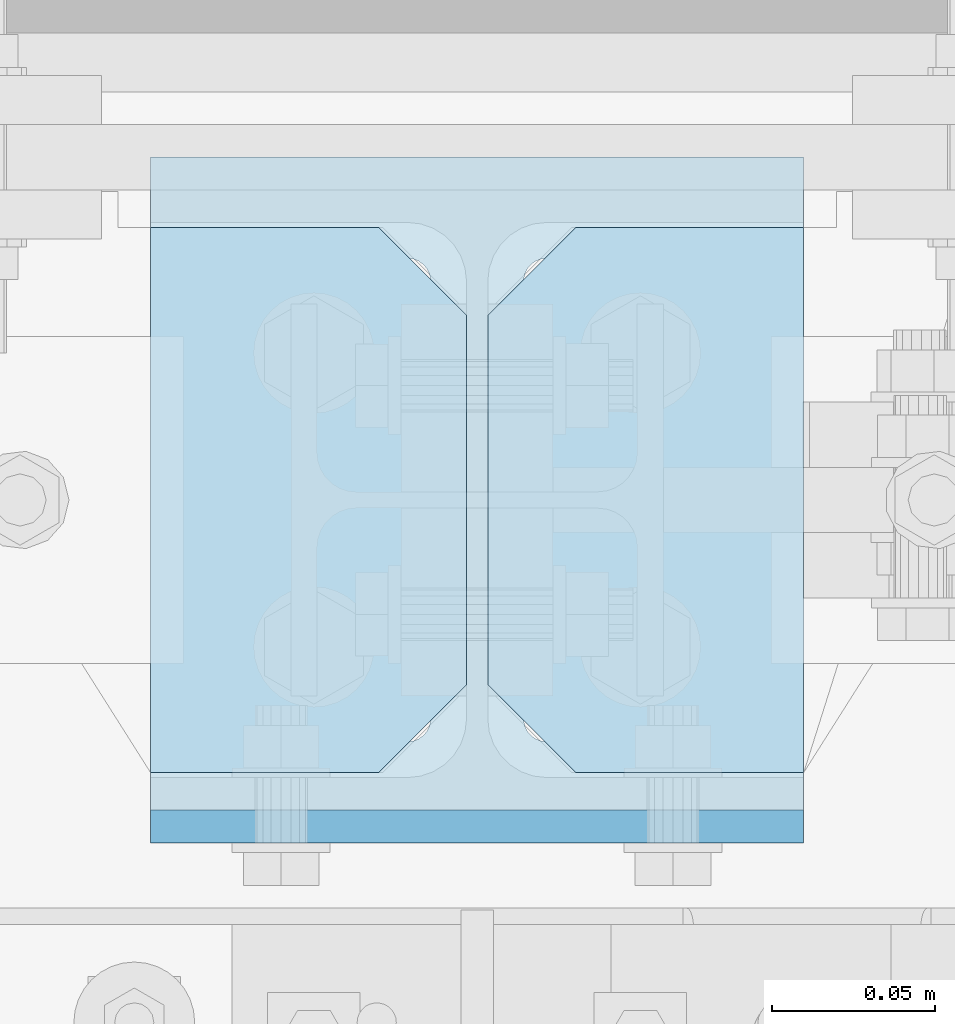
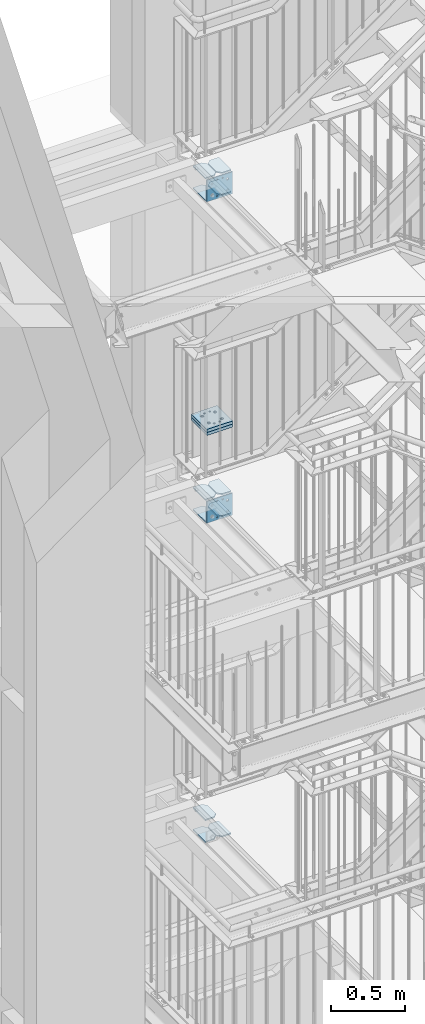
# One storey, part 186 of 825: 15 plates, 54 openings.
"""IFC2X3 building model written with IfcOpenShell, lengths in millimetres."""

from ifc_helpers import new_model, entity, si_unit, converted_unit, frame, frame_2d, origin, origin_with_axes, origin_2d_with_axis, place, context, project, spatial, polyline, circle, outline, extrude, material, layer, layer_set, element, save


model = new_model("IFC2X3")

# Units and contexts
model_context = context("Model", 3, precision=1e-09, world=origin_with_axes())
ifc_project = project(units=[si_unit("LENGTHUNIT", "METRE", prefix="MILLI"), si_unit("AREAUNIT", "SQUARE_METRE"), si_unit("VOLUMEUNIT", "CUBIC_METRE"), converted_unit("PLANEANGLEUNIT", "DEGREE", entity("IfcPlaneAngleMeasure", 0.01745329), si_unit("PLANEANGLEUNIT", "RADIAN"), dimensions=[0, 0, 0, 0, 0, 0, 0])], contexts=[model_context])

# Site, building, storey
site_placement = place(None, origin_with_axes())
site = spatial("IfcSite", under=ifc_project, at=site_placement, Name="Cnopf'sche Kinderklinik", CompositionType="ELEMENT")
building_placement = place(site_placement, origin_with_axes())
building = spatial("IfcBuilding", under=site, at=building_placement, Name="Struktur 1", CompositionType="ELEMENT")
storey_placement = place(building_placement, origin_with_axes())
storey = spatial("IfcBuildingStorey", under=building, at=storey_placement, Name="Default Storey", CompositionType="ELEMENT", Elevation=0.0)

# Plate, openings
ifc_material = material(Name="S235JR")
ifc_layer_1 = layer(ifc_material, 10.0)
ifc_layer_set_1 = layer_set([ifc_layer_1], Name="S235JR")
plate_1_placement = place(None, frame((4756.713402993, 7433.236971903, 9702.0), z_axis=(0.0, 0.0, 1.0), x_axis=(1.0, 0.0, 0.0)))
plate_1 = element("IfcPlate", 1, at=plate_1_placement, inside=storey, material=ifc_layer_set_1, Name="Stiffener#2", ObjectType="Stiffener#2", context=model_context, shape_type="SweptSolid", body=[
    extrude(outline(polyline([(0.0, 0.0), (96.75, 0.0), (96.75, 167.0), (0.0, 167.0), (0.0, 0.0)])), origin_with_axes(), (0.0, 0.0, 1.0), 10.0),
])
opening_1_placement = place(plate_1_placement, frame((0.0, 0.0, -0.01), z_axis=(0.0, 0.0, 1.0), x_axis=(1.0, 0.0, 0.0)))
element("IfcOpeningElement", 2, at=opening_1_placement, cuts=plate_1, ObjectType="Opening", context=model_context, shape_type="SweptSolid", body=[
    extrude(outline(polyline([(96.75, 167.0), (69.75, 167.0), (96.75, 140.0), (96.75, 167.0)])), origin(), (0.0, 0.0, 1.0), 10.02),
])
opening_2_placement = place(plate_1_placement, frame((0.0, 0.0, -0.01), z_axis=(0.0, 0.0, 1.0), x_axis=(1.0, 0.0, 0.0)))
element("IfcOpeningElement", 3, at=opening_2_placement, cuts=plate_1, ObjectType="Opening", context=model_context, shape_type="SweptSolid", body=[
    extrude(outline(polyline([(96.75, 0.0), (96.75, 27.0), (69.75, 0.0), (96.75, 0.0)])), origin(), (0.0, 0.0, 1.0), 10.02),
])

plate_2_placement = place(None, frame((4956.713402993, 7433.236971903, 9532.0), z_axis=(0.0, 0.0, -1.0), x_axis=(-1.0, 0.0, 0.0)))
plate_2 = element("IfcPlate", 4, at=plate_2_placement, inside=storey, material=ifc_layer_set_1, Name="Stiffener#3", ObjectType="Stiffener#3", context=model_context, shape_type="SweptSolid", body=[
    extrude(outline(polyline([(0.0, 0.0), (96.75, 0.0), (96.75, 167.0), (0.0, 167.0), (0.0, 0.0)])), origin_with_axes(), (0.0, 0.0, 1.0), 10.0),
])
opening_3_placement = place(plate_2_placement, frame((0.0, 0.0, -0.01), z_axis=(0.0, 0.0, 1.0), x_axis=(1.0, 0.0, 0.0)))
element("IfcOpeningElement", 5, at=opening_3_placement, cuts=plate_2, ObjectType="Opening", context=model_context, shape_type="SweptSolid", body=[
    extrude(outline(polyline([(96.75, 167.0), (69.75, 167.0), (96.75, 140.0), (96.75, 167.0)])), origin(), (0.0, 0.0, 1.0), 10.02),
])
opening_4_placement = place(plate_2_placement, frame((0.0, 0.0, -0.01), z_axis=(0.0, 0.0, 1.0), x_axis=(1.0, 0.0, 0.0)))
element("IfcOpeningElement", 6, at=opening_4_placement, cuts=plate_2, ObjectType="Opening", context=model_context, shape_type="SweptSolid", body=[
    extrude(outline(polyline([(96.75, 0.0), (96.75, 27.0), (69.75, 0.0), (96.75, 0.0)])), origin(), (0.0, 0.0, 1.0), 10.02),
])

plate_3_placement = place(None, frame((4853.463402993, 7433.236971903, 9532.0), z_axis=(0.0, 0.0, -1.0), x_axis=(-1.0, 0.0, 0.0)))
plate_3 = element("IfcPlate", 7, at=plate_3_placement, inside=storey, material=ifc_layer_set_1, Name="Stiffener#4", ObjectType="Stiffener#4", context=model_context, shape_type="SweptSolid", body=[
    extrude(outline(polyline([(0.0, 0.0), (96.75, 0.0), (96.75, 167.0), (0.0, 167.0), (0.0, 0.0)])), origin_with_axes(), (0.0, 0.0, 1.0), 10.0),
])
opening_5_placement = place(plate_3_placement, frame((0.0, 0.0, -0.01), z_axis=(0.0, 0.0, 1.0), x_axis=(1.0, 0.0, 0.0)))
element("IfcOpeningElement", 8, at=opening_5_placement, cuts=plate_3, ObjectType="Opening", context=model_context, shape_type="SweptSolid", body=[
    extrude(outline(polyline([(0.0, 167.0), (0.0, 140.0), (27.0, 167.0), (0.0, 167.0)])), origin(), (0.0, 0.0, 1.0), 10.02),
])
opening_6_placement = place(plate_3_placement, frame((0.0, 0.0, -0.01), z_axis=(0.0, 0.0, 1.0), x_axis=(1.0, 0.0, 0.0)))
element("IfcOpeningElement", 9, at=opening_6_placement, cuts=plate_3, ObjectType="Opening", context=model_context, shape_type="SweptSolid", body=[
    extrude(outline(polyline([(0.0, 0.0), (27.0, 0.0), (0.0, 27.0), (0.0, 0.0)])), origin(), (0.0, 0.0, 1.0), 10.02),
])

plate_4_placement = place(None, frame((4856.713402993, 7411.736971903, 12244.0), z_axis=(0.0, 1.0, 0.0), x_axis=(0.0, 0.0, -1.0)))
plate_4 = element("IfcPlate", 10, at=plate_4_placement, inside=storey, material=ifc_layer_set_1, Name="Endplate", ObjectType="Endplate", context=model_context, shape_type="SweptSolid", body=[
    extrude(outline(polyline([(-90.0, -100.0), (90.0, -100.0), (90.0, 100.0), (-90.0, 100.0), (-90.0, -100.0)])), origin_with_axes(), (0.0, 0.0, 1.0), 10.0),
])
opening_7_placement = place(plate_4_placement, frame((-67.0, 21.25, 10.5), z_axis=(0.0, 0.0, -1.0), x_axis=(-1.0, 0.0, 0.0)))
element("IfcOpeningElement", 11, at=opening_7_placement, cuts=plate_4, ObjectType="Opening", context=model_context, shape_type="SweptSolid", body=[
    extrude(circle(Radius=6.001, at=origin_2d_with_axis()), origin(), (0.0, 0.0, 1.0), 11.0),
])
opening_8_placement = place(plate_4_placement, frame((67.0, 21.25, 10.5), z_axis=(0.0, 0.0, -1.0), x_axis=(-1.0, 0.0, 0.0)))
element("IfcOpeningElement", 12, at=opening_8_placement, cuts=plate_4, ObjectType="Opening", context=model_context, shape_type="SweptSolid", body=[
    extrude(circle(Radius=6.001, at=origin_2d_with_axis()), origin(), (0.0, 0.0, 1.0), 11.0),
])
opening_9_placement = place(plate_4_placement, frame((67.0, -21.25, 10.5), z_axis=(0.0, 0.0, -1.0), x_axis=(-1.0, 0.0, 0.0)))
element("IfcOpeningElement", 13, at=opening_9_placement, cuts=plate_4, ObjectType="Opening", context=model_context, shape_type="SweptSolid", body=[
    extrude(circle(Radius=6.001, at=origin_2d_with_axis()), origin(), (0.0, 0.0, 1.0), 11.0),
])
opening_10_placement = place(plate_4_placement, frame((-67.0, -21.25, 10.5), z_axis=(0.0, 0.0, -1.0), x_axis=(-1.0, 0.0, 0.0)))
element("IfcOpeningElement", 14, at=opening_10_placement, cuts=plate_4, ObjectType="Opening", context=model_context, shape_type="SweptSolid", body=[
    extrude(circle(Radius=6.001, at=origin_2d_with_axis()), origin(), (0.0, 0.0, 1.0), 11.0),
])
opening_11_placement = place(plate_4_placement, frame((-45.0, -60.0, 10.5), z_axis=(0.0, 0.0, -1.0), x_axis=(0.0, -1.0, 0.0)))
element("IfcOpeningElement", 15, at=opening_11_placement, cuts=plate_4, ObjectType="Opening", context=model_context, shape_type="SweptSolid", body=[
    extrude(circle(Radius=9.001, at=origin_2d_with_axis()), origin(), (0.0, 0.0, 1.0), 11.0),
])
opening_12_placement = place(plate_4_placement, frame((45.0, -60.0, 10.5), z_axis=(0.0, 0.0, -1.0), x_axis=(0.0, -1.0, 0.0)))
element("IfcOpeningElement", 16, at=opening_12_placement, cuts=plate_4, ObjectType="Opening", context=model_context, shape_type="SweptSolid", body=[
    extrude(circle(Radius=9.001, at=origin_2d_with_axis()), origin(), (0.0, 0.0, 1.0), 11.0),
])
opening_13_placement = place(plate_4_placement, frame((45.0, 60.0, 10.5), z_axis=(0.0, 0.0, -1.0), x_axis=(0.0, 1.0, 0.0)))
element("IfcOpeningElement", 17, at=opening_13_placement, cuts=plate_4, ObjectType="Opening", context=model_context, shape_type="SweptSolid", body=[
    extrude(circle(Radius=9.001, at=origin_2d_with_axis()), origin(), (0.0, 0.0, 1.0), 11.0),
])
opening_14_placement = place(plate_4_placement, frame((-45.0, 60.0, 10.5), z_axis=(0.0, 0.0, -1.0), x_axis=(0.0, 1.0, 0.0)))
element("IfcOpeningElement", 18, at=opening_14_placement, cuts=plate_4, ObjectType="Opening", context=model_context, shape_type="SweptSolid", body=[
    extrude(circle(Radius=9.001, at=origin_2d_with_axis()), origin(), (0.0, 0.0, 1.0), 11.0),
])

plate_5_placement = place(None, frame((4859.963402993, 7433.236971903, 12329.0), z_axis=(0.0, 0.0, 1.0), x_axis=(1.0, 0.0, 0.0)))
plate_5 = element("IfcPlate", 19, at=plate_5_placement, inside=storey, material=ifc_layer_set_1, Name="Stiffener#1", ObjectType="Stiffener#1", context=model_context, shape_type="SweptSolid", body=[
    extrude(outline(polyline([(0.0, 0.0), (96.75, 0.0), (96.75, 167.0), (0.0, 167.0), (0.0, 0.0)])), origin_with_axes(), (0.0, 0.0, 1.0), 10.0),
])
opening_15_placement = place(plate_5_placement, frame((0.0, 0.0, -0.01), z_axis=(0.0, 0.0, 1.0), x_axis=(1.0, 0.0, 0.0)))
element("IfcOpeningElement", 20, at=opening_15_placement, cuts=plate_5, ObjectType="Opening", context=model_context, shape_type="SweptSolid", body=[
    extrude(outline(polyline([(0.0, 167.0), (0.0, 140.0), (27.0, 167.0), (0.0, 167.0)])), origin(), (0.0, 0.0, 1.0), 10.02),
])
opening_16_placement = place(plate_5_placement, frame((0.0, 0.0, -0.01), z_axis=(0.0, 0.0, 1.0), x_axis=(1.0, 0.0, 0.0)))
element("IfcOpeningElement", 21, at=opening_16_placement, cuts=plate_5, ObjectType="Opening", context=model_context, shape_type="SweptSolid", body=[
    extrude(outline(polyline([(0.0, 0.0), (27.0, 0.0), (0.0, 27.0), (0.0, 0.0)])), origin(), (0.0, 0.0, 1.0), 10.02),
])

plate_6_placement = place(None, frame((4756.713402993, 7433.236971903, 12329.0), z_axis=(0.0, 0.0, 1.0), x_axis=(1.0, 0.0, 0.0)))
plate_6 = element("IfcPlate", 22, at=plate_6_placement, inside=storey, material=ifc_layer_set_1, Name="Stiffener#2", ObjectType="Stiffener#2", context=model_context, shape_type="SweptSolid", body=[
    extrude(outline(polyline([(0.0, 0.0), (96.75, 0.0), (96.75, 167.0), (0.0, 167.0), (0.0, 0.0)])), origin_with_axes(), (0.0, 0.0, 1.0), 10.0),
])
opening_17_placement = place(plate_6_placement, frame((0.0, 0.0, -0.01), z_axis=(0.0, 0.0, 1.0), x_axis=(1.0, 0.0, 0.0)))
element("IfcOpeningElement", 23, at=opening_17_placement, cuts=plate_6, ObjectType="Opening", context=model_context, shape_type="SweptSolid", body=[
    extrude(outline(polyline([(96.75, 167.0), (69.75, 167.0), (96.75, 140.0), (96.75, 167.0)])), origin(), (0.0, 0.0, 1.0), 10.02),
])
opening_18_placement = place(plate_6_placement, frame((0.0, 0.0, -0.01), z_axis=(0.0, 0.0, 1.0), x_axis=(1.0, 0.0, 0.0)))
element("IfcOpeningElement", 24, at=opening_18_placement, cuts=plate_6, ObjectType="Opening", context=model_context, shape_type="SweptSolid", body=[
    extrude(outline(polyline([(96.75, 0.0), (96.75, 27.0), (69.75, 0.0), (96.75, 0.0)])), origin(), (0.0, 0.0, 1.0), 10.02),
])

plate_7_placement = place(None, frame((4956.713402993, 7433.236971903, 12159.0), z_axis=(0.0, 0.0, -1.0), x_axis=(-1.0, 0.0, 0.0)))
plate_7 = element("IfcPlate", 25, at=plate_7_placement, inside=storey, material=ifc_layer_set_1, Name="Stiffener#3", ObjectType="Stiffener#3", context=model_context, shape_type="SweptSolid", body=[
    extrude(outline(polyline([(0.0, 0.0), (96.75, 0.0), (96.75, 167.0), (0.0, 167.0), (0.0, 0.0)])), origin_with_axes(), (0.0, 0.0, 1.0), 10.0),
])
opening_19_placement = place(plate_7_placement, frame((0.0, 0.0, -0.01), z_axis=(0.0, 0.0, 1.0), x_axis=(1.0, 0.0, 0.0)))
element("IfcOpeningElement", 26, at=opening_19_placement, cuts=plate_7, ObjectType="Opening", context=model_context, shape_type="SweptSolid", body=[
    extrude(outline(polyline([(96.75, 167.0), (69.75, 167.0), (96.75, 140.0), (96.75, 167.0)])), origin(), (0.0, 0.0, 1.0), 10.02),
])
opening_20_placement = place(plate_7_placement, frame((0.0, 0.0, -0.01), z_axis=(0.0, 0.0, 1.0), x_axis=(1.0, 0.0, 0.0)))
element("IfcOpeningElement", 27, at=opening_20_placement, cuts=plate_7, ObjectType="Opening", context=model_context, shape_type="SweptSolid", body=[
    extrude(outline(polyline([(96.75, 0.0), (96.75, 27.0), (69.75, 0.0), (96.75, 0.0)])), origin(), (0.0, 0.0, 1.0), 10.02),
])

plate_8_placement = place(None, frame((4853.463402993, 7433.236971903, 12159.0), z_axis=(0.0, 0.0, -1.0), x_axis=(-1.0, 0.0, 0.0)))
plate_8 = element("IfcPlate", 28, at=plate_8_placement, inside=storey, material=ifc_layer_set_1, Name="Stiffener#4", ObjectType="Stiffener#4", context=model_context, shape_type="SweptSolid", body=[
    extrude(outline(polyline([(0.0, 0.0), (96.75, 0.0), (96.75, 167.0), (0.0, 167.0), (0.0, 0.0)])), origin_with_axes(), (0.0, 0.0, 1.0), 10.0),
])
opening_21_placement = place(plate_8_placement, frame((0.0, 0.0, -0.01), z_axis=(0.0, 0.0, 1.0), x_axis=(1.0, 0.0, 0.0)))
element("IfcOpeningElement", 29, at=opening_21_placement, cuts=plate_8, ObjectType="Opening", context=model_context, shape_type="SweptSolid", body=[
    extrude(outline(polyline([(0.0, 167.0), (0.0, 140.0), (27.0, 167.0), (0.0, 167.0)])), origin(), (0.0, 0.0, 1.0), 10.02),
])
opening_22_placement = place(plate_8_placement, frame((0.0, 0.0, -0.01), z_axis=(0.0, 0.0, 1.0), x_axis=(1.0, 0.0, 0.0)))
element("IfcOpeningElement", 30, at=opening_22_placement, cuts=plate_8, ObjectType="Opening", context=model_context, shape_type="SweptSolid", body=[
    extrude(outline(polyline([(0.0, 0.0), (27.0, 0.0), (0.0, 27.0), (0.0, 0.0)])), origin(), (0.0, 0.0, 1.0), 10.02),
])

plate_9_placement = place(None, frame((4856.713402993, 7411.736971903, 14879.0), z_axis=(0.0, 1.0, 0.0), x_axis=(0.0, 0.0, -1.0)))
plate_9 = element("IfcPlate", 31, at=plate_9_placement, inside=storey, material=ifc_layer_set_1, Name="Endplate", ObjectType="Endplate", context=model_context, shape_type="SweptSolid", body=[
    extrude(outline(polyline([(-90.0, -100.0), (90.0, -100.0), (90.0, 100.0), (-90.0, 100.0), (-90.0, -100.0)])), origin_with_axes(), (0.0, 0.0, 1.0), 10.0),
])
opening_23_placement = place(plate_9_placement, frame((-67.0, 21.25, 10.5), z_axis=(0.0, 0.0, -1.0), x_axis=(-1.0, 0.0, 0.0)))
element("IfcOpeningElement", 32, at=opening_23_placement, cuts=plate_9, ObjectType="Opening", context=model_context, shape_type="SweptSolid", body=[
    extrude(circle(Radius=6.001, at=origin_2d_with_axis()), origin(), (0.0, 0.0, 1.0), 11.0),
])
opening_24_placement = place(plate_9_placement, frame((67.0, 21.25, 10.5), z_axis=(0.0, 0.0, -1.0), x_axis=(-1.0, 0.0, 0.0)))
element("IfcOpeningElement", 33, at=opening_24_placement, cuts=plate_9, ObjectType="Opening", context=model_context, shape_type="SweptSolid", body=[
    extrude(circle(Radius=6.001, at=origin_2d_with_axis()), origin(), (0.0, 0.0, 1.0), 11.0),
])
opening_25_placement = place(plate_9_placement, frame((67.0, -21.25, 10.5), z_axis=(0.0, 0.0, -1.0), x_axis=(-1.0, 0.0, 0.0)))
element("IfcOpeningElement", 34, at=opening_25_placement, cuts=plate_9, ObjectType="Opening", context=model_context, shape_type="SweptSolid", body=[
    extrude(circle(Radius=6.001, at=origin_2d_with_axis()), origin(), (0.0, 0.0, 1.0), 11.0),
])
opening_26_placement = place(plate_9_placement, frame((-67.0, -21.25, 10.5), z_axis=(0.0, 0.0, -1.0), x_axis=(-1.0, 0.0, 0.0)))
element("IfcOpeningElement", 35, at=opening_26_placement, cuts=plate_9, ObjectType="Opening", context=model_context, shape_type="SweptSolid", body=[
    extrude(circle(Radius=6.001, at=origin_2d_with_axis()), origin(), (0.0, 0.0, 1.0), 11.0),
])
opening_27_placement = place(plate_9_placement, frame((-45.0, 60.0, 10.5), z_axis=(0.0, 0.0, -1.0), x_axis=(0.0, 1.0, 0.0)))
element("IfcOpeningElement", 36, at=opening_27_placement, cuts=plate_9, ObjectType="Opening", context=model_context, shape_type="SweptSolid", body=[
    extrude(circle(Radius=9.001, at=origin_2d_with_axis()), origin(), (0.0, 0.0, 1.0), 11.0),
])
opening_28_placement = place(plate_9_placement, frame((45.0, 60.0, 10.5), z_axis=(0.0, 0.0, -1.0), x_axis=(0.0, 1.0, 0.0)))
element("IfcOpeningElement", 37, at=opening_28_placement, cuts=plate_9, ObjectType="Opening", context=model_context, shape_type="SweptSolid", body=[
    extrude(circle(Radius=9.001, at=origin_2d_with_axis()), origin(), (0.0, 0.0, 1.0), 11.0),
])
opening_29_placement = place(plate_9_placement, frame((45.0, -60.0, 10.5), z_axis=(0.0, 0.0, -1.0), x_axis=(0.0, -1.0, 0.0)))
element("IfcOpeningElement", 38, at=opening_29_placement, cuts=plate_9, ObjectType="Opening", context=model_context, shape_type="SweptSolid", body=[
    extrude(circle(Radius=9.001, at=origin_2d_with_axis()), origin(), (0.0, 0.0, 1.0), 11.0),
])
opening_30_placement = place(plate_9_placement, frame((-45.0, -60.0, 10.5), z_axis=(0.0, 0.0, -1.0), x_axis=(0.0, -1.0, 0.0)))
element("IfcOpeningElement", 39, at=opening_30_placement, cuts=plate_9, ObjectType="Opening", context=model_context, shape_type="SweptSolid", body=[
    extrude(circle(Radius=9.001, at=origin_2d_with_axis()), origin(), (0.0, 0.0, 1.0), 11.0),
])

plate_10_placement = place(None, frame((4859.963402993, 7433.236971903, 14964.0), z_axis=(0.0, 0.0, 1.0), x_axis=(1.0, 0.0, 0.0)))
plate_10 = element("IfcPlate", 40, at=plate_10_placement, inside=storey, material=ifc_layer_set_1, Name="Stiffener#1", ObjectType="Stiffener#1", context=model_context, shape_type="SweptSolid", body=[
    extrude(outline(polyline([(0.0, 0.0), (96.75, 0.0), (96.75, 167.0), (0.0, 167.0), (0.0, 0.0)])), origin_with_axes(), (0.0, 0.0, 1.0), 10.0),
])
opening_31_placement = place(plate_10_placement, frame((0.0, 0.0, -0.01), z_axis=(0.0, 0.0, 1.0), x_axis=(1.0, 0.0, 0.0)))
element("IfcOpeningElement", 41, at=opening_31_placement, cuts=plate_10, ObjectType="Opening", context=model_context, shape_type="SweptSolid", body=[
    extrude(outline(polyline([(0.0, 167.0), (0.0, 140.0), (27.0, 167.0), (0.0, 167.0)])), origin(), (0.0, 0.0, 1.0), 10.02),
])
opening_32_placement = place(plate_10_placement, frame((0.0, 0.0, -0.01), z_axis=(0.0, 0.0, 1.0), x_axis=(1.0, 0.0, 0.0)))
element("IfcOpeningElement", 42, at=opening_32_placement, cuts=plate_10, ObjectType="Opening", context=model_context, shape_type="SweptSolid", body=[
    extrude(outline(polyline([(0.0, 0.0), (27.0, 0.0), (0.0, 27.0), (0.0, 0.0)])), origin(), (0.0, 0.0, 1.0), 10.02),
])

plate_11_placement = place(None, frame((4756.713402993, 7433.236971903, 14964.0), z_axis=(0.0, 0.0, 1.0), x_axis=(1.0, 0.0, 0.0)))
plate_11 = element("IfcPlate", 43, at=plate_11_placement, inside=storey, material=ifc_layer_set_1, Name="Stiffener#2", ObjectType="Stiffener#2", context=model_context, shape_type="SweptSolid", body=[
    extrude(outline(polyline([(0.0, 0.0), (96.75, 0.0), (96.75, 167.0), (0.0, 167.0), (0.0, 0.0)])), origin_with_axes(), (0.0, 0.0, 1.0), 10.0),
])
opening_33_placement = place(plate_11_placement, frame((0.0, 0.0, -0.01), z_axis=(0.0, 0.0, 1.0), x_axis=(1.0, 0.0, 0.0)))
element("IfcOpeningElement", 44, at=opening_33_placement, cuts=plate_11, ObjectType="Opening", context=model_context, shape_type="SweptSolid", body=[
    extrude(outline(polyline([(96.75, 167.0), (69.75, 167.0), (96.75, 140.0), (96.75, 167.0)])), origin(), (0.0, 0.0, 1.0), 10.02),
])
opening_34_placement = place(plate_11_placement, frame((0.0, 0.0, -0.01), z_axis=(0.0, 0.0, 1.0), x_axis=(1.0, 0.0, 0.0)))
element("IfcOpeningElement", 45, at=opening_34_placement, cuts=plate_11, ObjectType="Opening", context=model_context, shape_type="SweptSolid", body=[
    extrude(outline(polyline([(96.75, 0.0), (96.75, 27.0), (69.75, 0.0), (96.75, 0.0)])), origin(), (0.0, 0.0, 1.0), 10.02),
])

plate_12_placement = place(None, frame((4956.713402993, 7433.236971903, 14794.0), z_axis=(0.0, 0.0, -1.0), x_axis=(-1.0, 0.0, 0.0)))
plate_12 = element("IfcPlate", 46, at=plate_12_placement, inside=storey, material=ifc_layer_set_1, Name="Stiffener#3", ObjectType="Stiffener#3", context=model_context, shape_type="SweptSolid", body=[
    extrude(outline(polyline([(0.0, 0.0), (96.75, 0.0), (96.75, 167.0), (0.0, 167.0), (0.0, 0.0)])), origin_with_axes(), (0.0, 0.0, 1.0), 10.0),
])
opening_35_placement = place(plate_12_placement, frame((0.0, 0.0, -0.01), z_axis=(0.0, 0.0, 1.0), x_axis=(1.0, 0.0, 0.0)))
element("IfcOpeningElement", 47, at=opening_35_placement, cuts=plate_12, ObjectType="Opening", context=model_context, shape_type="SweptSolid", body=[
    extrude(outline(polyline([(96.75, 167.0), (69.75, 167.0), (96.75, 140.0), (96.75, 167.0)])), origin(), (0.0, 0.0, 1.0), 10.02),
])
opening_36_placement = place(plate_12_placement, frame((0.0, 0.0, -0.01), z_axis=(0.0, 0.0, 1.0), x_axis=(1.0, 0.0, 0.0)))
element("IfcOpeningElement", 48, at=opening_36_placement, cuts=plate_12, ObjectType="Opening", context=model_context, shape_type="SweptSolid", body=[
    extrude(outline(polyline([(96.75, 0.0), (96.75, 27.0), (69.75, 0.0), (96.75, 0.0)])), origin(), (0.0, 0.0, 1.0), 10.02),
])

plate_13_placement = place(None, frame((4853.463402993, 7433.236971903, 14794.0), z_axis=(0.0, 0.0, -1.0), x_axis=(-1.0, 0.0, 0.0)))
plate_13 = element("IfcPlate", 49, at=plate_13_placement, inside=storey, material=ifc_layer_set_1, Name="Stiffener#4", ObjectType="Stiffener#4", context=model_context, shape_type="SweptSolid", body=[
    extrude(outline(polyline([(0.0, 0.0), (96.75, 0.0), (96.75, 167.0), (0.0, 167.0), (0.0, 0.0)])), origin_with_axes(), (0.0, 0.0, 1.0), 10.0),
])
opening_37_placement = place(plate_13_placement, frame((0.0, 0.0, -0.01), z_axis=(0.0, 0.0, 1.0), x_axis=(1.0, 0.0, 0.0)))
element("IfcOpeningElement", 50, at=opening_37_placement, cuts=plate_13, ObjectType="Opening", context=model_context, shape_type="SweptSolid", body=[
    extrude(outline(polyline([(0.0, 167.0), (0.0, 140.0), (27.0, 167.0), (0.0, 167.0)])), origin(), (0.0, 0.0, 1.0), 10.02),
])
opening_38_placement = place(plate_13_placement, frame((0.0, 0.0, -0.01), z_axis=(0.0, 0.0, 1.0), x_axis=(1.0, 0.0, 0.0)))
element("IfcOpeningElement", 51, at=opening_38_placement, cuts=plate_13, ObjectType="Opening", context=model_context, shape_type="SweptSolid", body=[
    extrude(outline(polyline([(0.0, 0.0), (27.0, 0.0), (0.0, 27.0), (0.0, 0.0)])), origin(), (0.0, 0.0, 1.0), 10.02),
])

ifc_layer_2 = layer(ifc_material, 25.0)
ifc_layer_set_2 = layer_set([ifc_layer_2], Name="S235JR")
plate_14_placement = place(None, frame((4856.713402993, 7516.736971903, 12900.0), z_axis=(0.0, 0.0, -1.0), x_axis=(0.0, 1.0, 0.0)))
plate_14 = element("IfcPlate", 52, at=plate_14_placement, inside=storey, material=ifc_layer_set_2, Name="Endplate#1", ObjectType="Endplate#1", context=model_context, shape_type="SweptSolid", body=[
    extrude(outline(polyline([(-105.0, -100.0), (105.0, -100.0), (105.0, 100.0), (-105.0, 100.0), (-105.0, -100.0)])), origin_with_axes(), (0.0, 0.0, 1.0), 25.0),
])
opening_39_placement = place(plate_14_placement, frame((67.0, 21.25, -0.5), z_axis=(0.0, 0.0, 1.0), x_axis=(1.0, 0.0, 0.0)))
element("IfcOpeningElement", 53, at=opening_39_placement, cuts=plate_14, ObjectType="Opening", context=model_context, shape_type="SweptSolid", body=[
    extrude(circle(Radius=7.001, at=origin_2d_with_axis()), origin(), (0.0, 0.0, 1.0), 26.0),
])
opening_40_placement = place(plate_14_placement, frame((-67.0, 21.25, -0.5), z_axis=(0.0, 0.0, 1.0), x_axis=(1.0, 0.0, 0.0)))
element("IfcOpeningElement", 54, at=opening_40_placement, cuts=plate_14, ObjectType="Opening", context=model_context, shape_type="SweptSolid", body=[
    extrude(circle(Radius=7.001, at=origin_2d_with_axis()), origin(), (0.0, 0.0, 1.0), 26.0),
])
opening_41_placement = place(plate_14_placement, frame((-67.0, -21.25, -0.5), z_axis=(0.0, 0.0, 1.0), x_axis=(1.0, 0.0, 0.0)))
element("IfcOpeningElement", 55, at=opening_41_placement, cuts=plate_14, ObjectType="Opening", context=model_context, shape_type="SweptSolid", body=[
    extrude(circle(Radius=7.001, at=origin_2d_with_axis()), origin(), (0.0, 0.0, 1.0), 26.0),
])
opening_42_placement = place(plate_14_placement, frame((67.0, -21.25, -0.5), z_axis=(0.0, 0.0, 1.0), x_axis=(1.0, 0.0, 0.0)))
element("IfcOpeningElement", 56, at=opening_42_placement, cuts=plate_14, ObjectType="Opening", context=model_context, shape_type="SweptSolid", body=[
    extrude(circle(Radius=7.001, at=origin_2d_with_axis()), origin(), (0.0, 0.0, 1.0), 26.0),
])
opening_43_placement = place(plate_14_placement, frame((45.0, 61.001, 25.5), z_axis=(0.0, 0.0, 1.0), x_axis=(1.0, 0.0, 0.0)))
element("IfcOpeningElement", 57, at=opening_43_placement, cuts=plate_14, ObjectType="Opening", context=model_context, shape_type="SweptSolid", body=[
    extrude(circle(Radius=11.001, at=frame_2d((0.0, -11.001), x_axis=(1.0, 0.0))), origin(), (0.0, 0.0, -1.0), 26.0),
])
opening_44_placement = place(plate_14_placement, frame((-45.0, 61.001, 25.5), z_axis=(0.0, 0.0, 1.0), x_axis=(1.0, 0.0, 0.0)))
element("IfcOpeningElement", 58, at=opening_44_placement, cuts=plate_14, ObjectType="Opening", context=model_context, shape_type="SweptSolid", body=[
    extrude(circle(Radius=11.001, at=frame_2d((0.0, -11.001), x_axis=(1.0, 0.0))), origin(), (0.0, 0.0, -1.0), 26.0),
])
opening_45_placement = place(plate_14_placement, frame((45.0, -38.999, 25.5), z_axis=(0.0, 0.0, 1.0), x_axis=(1.0, 0.0, 0.0)))
element("IfcOpeningElement", 59, at=opening_45_placement, cuts=plate_14, ObjectType="Opening", context=model_context, shape_type="SweptSolid", body=[
    extrude(circle(Radius=11.001, at=frame_2d((0.0, -11.001), x_axis=(1.0, 0.0))), origin(), (0.0, 0.0, -1.0), 26.0),
])
opening_46_placement = place(plate_14_placement, frame((-45.0, -38.999, 25.5), z_axis=(0.0, 0.0, 1.0), x_axis=(1.0, 0.0, 0.0)))
element("IfcOpeningElement", 60, at=opening_46_placement, cuts=plate_14, ObjectType="Opening", context=model_context, shape_type="SweptSolid", body=[
    extrude(circle(Radius=11.001, at=frame_2d((0.0, -11.001), x_axis=(1.0, 0.0))), origin(), (0.0, 0.0, -1.0), 26.0),
])

plate_15_placement = place(None, frame((4856.713402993, 7516.736971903, 12925.0), z_axis=(0.0, 0.0, -1.0), x_axis=(0.0, 1.0, 0.0)))
plate_15 = element("IfcPlate", 61, at=plate_15_placement, inside=storey, material=ifc_layer_set_2, Name="Endplate#2", ObjectType="Endplate#2", context=model_context, shape_type="SweptSolid", body=[
    extrude(outline(polyline([(-105.0, -100.0), (105.0, -100.0), (105.0, 100.0), (-105.0, 100.0), (-105.0, -100.0)])), origin_with_axes(), (0.0, 0.0, 1.0), 25.0),
])
opening_47_placement = place(plate_15_placement, frame((67.0, 21.25, 25.5), z_axis=(0.0, 0.0, -1.0), x_axis=(-1.0, 0.0, 0.0)))
element("IfcOpeningElement", 62, at=opening_47_placement, cuts=plate_15, ObjectType="Opening", context=model_context, shape_type="SweptSolid", body=[
    extrude(circle(Radius=7.001, at=origin_2d_with_axis()), origin(), (0.0, 0.0, 1.0), 26.0),
])
opening_48_placement = place(plate_15_placement, frame((-67.0, 21.25, 25.5), z_axis=(0.0, 0.0, -1.0), x_axis=(-1.0, 0.0, 0.0)))
element("IfcOpeningElement", 63, at=opening_48_placement, cuts=plate_15, ObjectType="Opening", context=model_context, shape_type="SweptSolid", body=[
    extrude(circle(Radius=7.001, at=origin_2d_with_axis()), origin(), (0.0, 0.0, 1.0), 26.0),
])
opening_49_placement = place(plate_15_placement, frame((-67.0, -21.25, 25.5), z_axis=(0.0, 0.0, -1.0), x_axis=(-1.0, 0.0, 0.0)))
element("IfcOpeningElement", 64, at=opening_49_placement, cuts=plate_15, ObjectType="Opening", context=model_context, shape_type="SweptSolid", body=[
    extrude(circle(Radius=7.001, at=origin_2d_with_axis()), origin(), (0.0, 0.0, 1.0), 26.0),
])
opening_50_placement = place(plate_15_placement, frame((67.0, -21.25, 25.5), z_axis=(0.0, 0.0, -1.0), x_axis=(-1.0, 0.0, 0.0)))
element("IfcOpeningElement", 65, at=opening_50_placement, cuts=plate_15, ObjectType="Opening", context=model_context, shape_type="SweptSolid", body=[
    extrude(circle(Radius=7.001, at=origin_2d_with_axis()), origin(), (0.0, 0.0, 1.0), 26.0),
])
opening_51_placement = place(plate_15_placement, frame((45.0, 61.001, 25.5), z_axis=(0.0, 0.0, 1.0), x_axis=(1.0, 0.0, 0.0)))
element("IfcOpeningElement", 66, at=opening_51_placement, cuts=plate_15, ObjectType="Opening", context=model_context, shape_type="SweptSolid", body=[
    extrude(circle(Radius=11.001, at=frame_2d((0.0, -11.001), x_axis=(1.0, 0.0))), origin(), (0.0, 0.0, -1.0), 26.0),
])
opening_52_placement = place(plate_15_placement, frame((-45.0, 61.001, 25.5), z_axis=(0.0, 0.0, 1.0), x_axis=(1.0, 0.0, 0.0)))
element("IfcOpeningElement", 67, at=opening_52_placement, cuts=plate_15, ObjectType="Opening", context=model_context, shape_type="SweptSolid", body=[
    extrude(circle(Radius=11.001, at=frame_2d((0.0, -11.001), x_axis=(1.0, 0.0))), origin(), (0.0, 0.0, -1.0), 26.0),
])
opening_53_placement = place(plate_15_placement, frame((45.0, -38.999, 25.5), z_axis=(0.0, 0.0, 1.0), x_axis=(1.0, 0.0, 0.0)))
element("IfcOpeningElement", 68, at=opening_53_placement, cuts=plate_15, ObjectType="Opening", context=model_context, shape_type="SweptSolid", body=[
    extrude(circle(Radius=11.001, at=frame_2d((0.0, -11.001), x_axis=(1.0, 0.0))), origin(), (0.0, 0.0, -1.0), 26.0),
])
opening_54_placement = place(plate_15_placement, frame((-45.0, -38.999, 25.5), z_axis=(0.0, 0.0, 1.0), x_axis=(1.0, 0.0, 0.0)))
element("IfcOpeningElement", 69, at=opening_54_placement, cuts=plate_15, ObjectType="Opening", context=model_context, shape_type="SweptSolid", body=[
    extrude(circle(Radius=11.001, at=frame_2d((0.0, -11.001), x_axis=(1.0, 0.0))), origin(), (0.0, 0.0, -1.0), 26.0),
])

save(model, "model.ifc")
